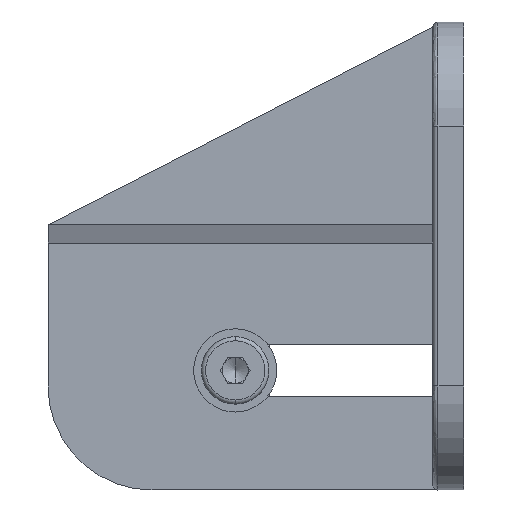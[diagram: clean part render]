
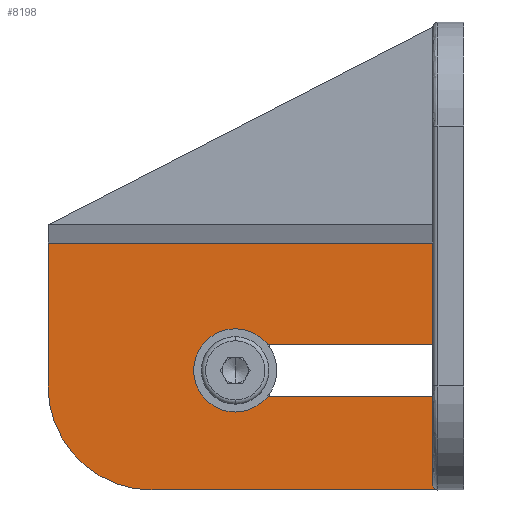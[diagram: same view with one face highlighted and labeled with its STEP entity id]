
A CAD part, left-side view. The second image highlights one B-rep face of the part: STEP entity #8198.
In plain terms, the highlighted planar face has unit normal (-1, 0, 0).
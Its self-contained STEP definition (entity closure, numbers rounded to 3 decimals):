
#139 = CARTESIAN_POINT ( 'NONE',  ( 633.383, 833.524, 1241.422 ) ) ;
#172 = CARTESIAN_POINT ( 'NONE',  ( 633.383, 833.524, 1247.172 ) ) ;
#188 = VECTOR ( 'NONE', #8941, 1000. ) ;
#900 = EDGE_CURVE ( 'NONE', #2459, #8628, #5441, .T. ) ;
#999 = LINE ( 'NONE', #2068, #9424 ) ;
#1141 = EDGE_CURVE ( 'NONE', #2710, #7192, #9390, .T. ) ;
#1171 = VECTOR ( 'NONE', #2626, 1000. ) ;
#1412 = CARTESIAN_POINT ( 'NONE',  ( 633.383, 907.524, 1243.422 ) ) ;
#1589 = DIRECTION ( 'NONE',  ( 0., 0., 1. ) ) ;
#1791 = EDGE_CURVE ( 'NONE', #8628, #3602, #8779, .T. ) ;
#1938 = DIRECTION ( 'NONE',  ( 0., 1., 0. ) ) ;
#2068 = CARTESIAN_POINT ( 'NONE',  ( 633.383, 831.024, 1270.922 ) ) ;
#2118 = DIRECTION ( 'NONE',  ( 0., 1., 0. ) ) ;
#2121 = ORIENTED_EDGE ( 'NONE', *, *, #2855, .F. ) ;
#2232 = CARTESIAN_POINT ( 'NONE',  ( 633.383, 832.524, 1223.422 ) ) ;
#2274 = DIRECTION ( 'NONE',  ( -1., 0., 0. ) ) ;
#2333 = EDGE_CURVE ( 'NONE', #2346, #2459, #7761, .T. ) ;
#2346 = VERTEX_POINT ( 'NONE', #4992 ) ;
#2419 = DIRECTION ( 'NONE',  ( 0., 0., 1. ) ) ;
#2459 = VERTEX_POINT ( 'NONE', #3490 ) ;
#2626 = DIRECTION ( 'NONE',  ( 0., -1., 0. ) ) ;
#2707 = CARTESIAN_POINT ( 'NONE',  ( 633.383, 907.524, 1242.802 ) ) ;
#2710 = VERTEX_POINT ( 'NONE', #2232 ) ;
#2855 = EDGE_CURVE ( 'NONE', #7734, #3477, #8553, .T. ) ;
#2921 = CARTESIAN_POINT ( 'NONE',  ( 633.383, 826.644, 1251.422 ) ) ;
#3173 = EDGE_CURVE ( 'NONE', #4729, #2346, #6088, .T. ) ;
#3217 = FACE_OUTER_BOUND ( 'NONE', #11658, .T. ) ;
#3422 = AXIS2_PLACEMENT_3D ( 'NONE', #8889, #2274, #10954 ) ;
#3474 = CARTESIAN_POINT ( 'NONE',  ( 633.383, 887.524, 1243.422 ) ) ;
#3477 = VERTEX_POINT ( 'NONE', #1412 ) ;
#3490 = CARTESIAN_POINT ( 'NONE',  ( 633.383, 871.524, 1251.422 ) ) ;
#3602 = VERTEX_POINT ( 'NONE', #10694 ) ;
#3714 = ORIENTED_EDGE ( 'NONE', *, *, #6239, .T. ) ;
#4260 = DIRECTION ( 'NONE',  ( 0., 1., 0. ) ) ;
#4654 = DIRECTION ( 'NONE',  ( 1., 0., 0. ) ) ;
#4729 = VERTEX_POINT ( 'NONE', #139 ) ;
#4736 = EDGE_CURVE ( 'NONE', #3602, #5099, #999, .T. ) ;
#4802 = CARTESIAN_POINT ( 'NONE',  ( 633.383, 871.524, 1246.422 ) ) ;
#4992 = CARTESIAN_POINT ( 'NONE',  ( 633.383, 871.524, 1241.422 ) ) ;
#5017 = PLANE ( 'NONE',  #3422 ) ;
#5099 = VERTEX_POINT ( 'NONE', #11807 ) ;
#5350 = AXIS2_PLACEMENT_3D ( 'NONE', #10570, #4654, #10333 ) ;
#5441 = LINE ( 'NONE', #2921, #1171 ) ;
#5528 = AXIS2_PLACEMENT_3D ( 'NONE', #3474, #9962, #2419 ) ;
#5745 = ORIENTED_EDGE ( 'NONE', *, *, #10785, .F. ) ;
#5749 = DIRECTION ( 'NONE',  ( 1., 0., 0. ) ) ;
#5884 = ORIENTED_EDGE ( 'NONE', *, *, #3173, .T. ) ;
#6088 = LINE ( 'NONE', #7802, #12223 ) ;
#6239 = EDGE_CURVE ( 'NONE', #7192, #4729, #7643, .T. ) ;
#6881 = VECTOR ( 'NONE', #1589, 1000. ) ;
#6906 = ORIENTED_EDGE ( 'NONE', *, *, #2333, .T. ) ;
#6933 = CARTESIAN_POINT ( 'NONE',  ( 633.383, 833.524, 1247.172 ) ) ;
#7065 = LINE ( 'NONE', #8070, #11333 ) ;
#7192 = VERTEX_POINT ( 'NONE', #11840 ) ;
#7442 = LINE ( 'NONE', #2707, #6881 ) ;
#7643 = LINE ( 'NONE', #6933, #188 ) ;
#7734 = VERTEX_POINT ( 'NONE', #11406 ) ;
#7742 = ORIENTED_EDGE ( 'NONE', *, *, #900, .T. ) ;
#7761 = CIRCLE ( 'NONE', #7960, 5. ) ;
#7802 = CARTESIAN_POINT ( 'NONE',  ( 633.383, 826.644, 1241.422 ) ) ;
#7960 = AXIS2_PLACEMENT_3D ( 'NONE', #4802, #5749, #9428 ) ;
#8070 = CARTESIAN_POINT ( 'NONE',  ( 633.383, 826.324, 1223.422 ) ) ;
#8198 = ADVANCED_FACE ( 'NONE', ( #3217 ), #5017, .T. ) ;
#8553 = CIRCLE ( 'NONE', #5528, 20. ) ;
#8628 = VERTEX_POINT ( 'NONE', #9952 ) ;
#8709 = DIRECTION ( 'NONE',  ( 0., 0., 1. ) ) ;
#8779 = LINE ( 'NONE', #172, #9836 ) ;
#8889 = CARTESIAN_POINT ( 'NONE',  ( 633.383, 831.024, 1247.172 ) ) ;
#8941 = DIRECTION ( 'NONE',  ( 0., 0., 1. ) ) ;
#9192 = ORIENTED_EDGE ( 'NONE', *, *, #4736, .T. ) ;
#9390 = CIRCLE ( 'NONE', #5350, 1. ) ;
#9399 = EDGE_CURVE ( 'NONE', #3477, #5099, #7442, .T. ) ;
#9424 = VECTOR ( 'NONE', #1938, 1000. ) ;
#9428 = DIRECTION ( 'NONE',  ( 0., 0., -1. ) ) ;
#9836 = VECTOR ( 'NONE', #8709, 1000. ) ;
#9952 = CARTESIAN_POINT ( 'NONE',  ( 633.383, 833.524, 1251.422 ) ) ;
#9962 = DIRECTION ( 'NONE',  ( 1., 0., 0. ) ) ;
#10333 = DIRECTION ( 'NONE',  ( 0., 0., 1. ) ) ;
#10570 = CARTESIAN_POINT ( 'NONE',  ( 633.383, 832.524, 1224.422 ) ) ;
#10694 = CARTESIAN_POINT ( 'NONE',  ( 633.383, 833.524, 1270.922 ) ) ;
#10785 = EDGE_CURVE ( 'NONE', #2710, #7734, #7065, .T. ) ;
#10954 = DIRECTION ( 'NONE',  ( 0., 1., 0. ) ) ;
#11333 = VECTOR ( 'NONE', #4260, 1000. ) ;
#11406 = CARTESIAN_POINT ( 'NONE',  ( 633.383, 887.524, 1223.422 ) ) ;
#11658 = EDGE_LOOP ( 'NONE', ( #5884, #6906, #7742, #12302, #9192, #11753, #2121, #5745, #12246, #3714 ) ) ;
#11753 = ORIENTED_EDGE ( 'NONE', *, *, #9399, .F. ) ;
#11807 = CARTESIAN_POINT ( 'NONE',  ( 633.383, 907.524, 1270.922 ) ) ;
#11840 = CARTESIAN_POINT ( 'NONE',  ( 633.383, 833.524, 1224.422 ) ) ;
#12223 = VECTOR ( 'NONE', #2118, 1000. ) ;
#12246 = ORIENTED_EDGE ( 'NONE', *, *, #1141, .T. ) ;
#12302 = ORIENTED_EDGE ( 'NONE', *, *, #1791, .T. ) ;
